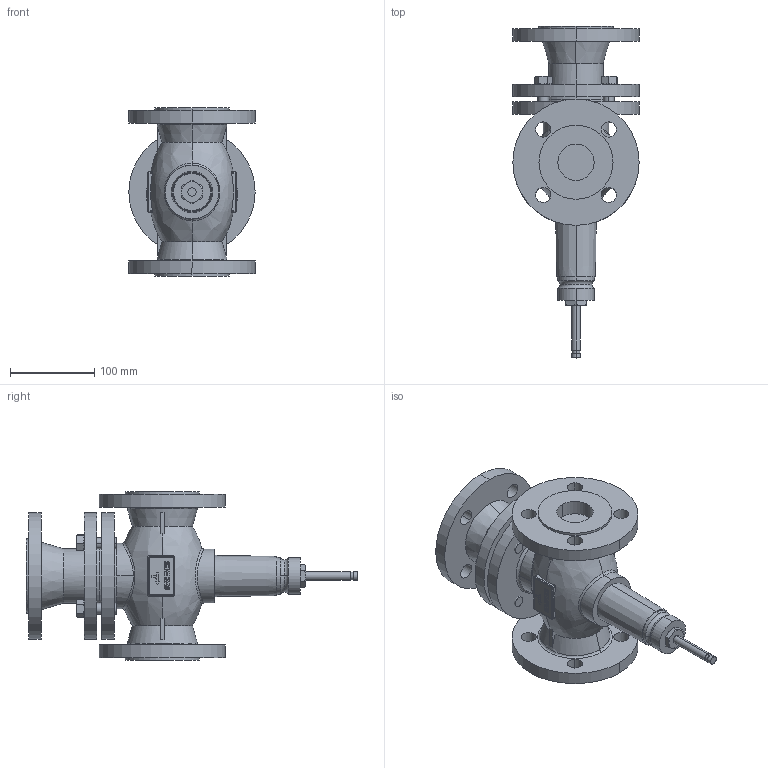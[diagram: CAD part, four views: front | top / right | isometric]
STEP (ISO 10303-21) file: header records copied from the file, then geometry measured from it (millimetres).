
FILE_DESCRIPTION((''),'2;1');
FILE_NAME('000322.dwg.stp','2006-10-23T13:46:14',(''),(''),'Mechanical Desktop 2006','Mechanical Desktop 2006',', , ');
FILE_SCHEMA(('AUTOMOTIVE_DESIGN { 1 2 10303 214 0 1 1 1 }'));
Length unit declared in the file: millimetre
Products named in the file (1): Product
Bounding box: 150 x 394.5 x 200 mm (x, y, z)
Volume: 2830040.4 mm3; surface area: 348601.8 mm2
Topology: 36 solids, 36 shells, 624 faces, 1601 edges, 1049 vertices
Faces by surface type: cylinder 278, plane 238, bspline 86, cone 10, sphere 8, torus 4
Entity records: 20791 total; most frequent: CARTESIAN_POINT 5648, ORIENTED_EDGE 3186, DIRECTION 3120, EDGE_CURVE 1593, AXIS2_PLACEMENT_3D 1149, VERTEX_POINT 1049, VECTOR 822, LINE 822
